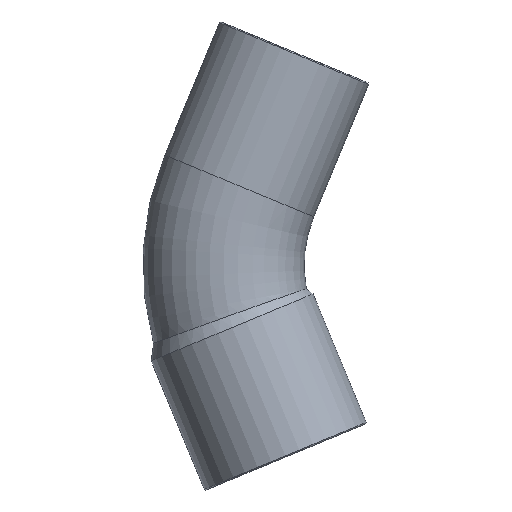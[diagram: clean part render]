
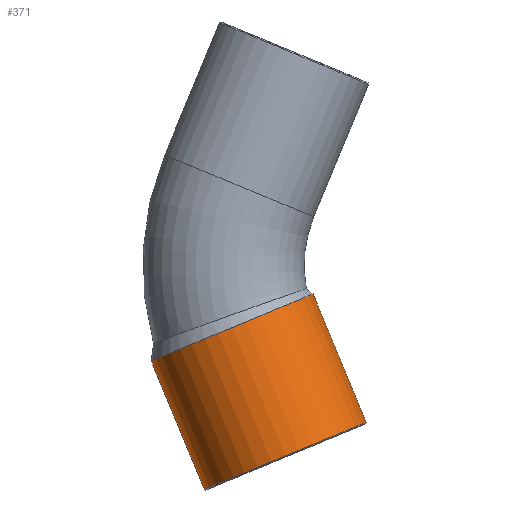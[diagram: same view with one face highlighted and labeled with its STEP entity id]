
A CAD part, front view. The second image highlights one B-rep face of the part: STEP entity #371.
In plain terms, the highlighted cylindrical face has radius 7.6 mm (diameter 15.2 mm), a partial arc.
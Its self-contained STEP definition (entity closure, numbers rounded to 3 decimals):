
#178=CARTESIAN_POINT('',(-19.835,0.,-8.303));
#179=VERTEX_POINT('',#178);
#186=CARTESIAN_POINT('',(-5.792,0.,-2.486));
#187=VERTEX_POINT('',#186);
#188=CARTESIAN_POINT('',(-12.814,0.,-5.395));
#189=DIRECTION('',(-0.383,0.,0.924));
#190=DIRECTION('',(0.924,0.,0.383));
#191=AXIS2_PLACEMENT_3D('',#188,#189,#190);
#192=CIRCLE('',#191,7.6);
#193=EDGE_CURVE('',#179,#187,#192,.T.);
#340=CARTESIAN_POINT('',(-12.752,0.,-5.543));
#341=DIRECTION('',(0.383,0.,-0.924));
#342=DIRECTION('',(0.924,0.,0.383));
#343=AXIS2_PLACEMENT_3D('',#340,#341,#342);
#344=CYLINDRICAL_SURFACE('',#343,7.6);
#345=CARTESIAN_POINT('',(-1.177,0.,-13.629));
#346=VERTEX_POINT('',#345);
#347=CARTESIAN_POINT('',(-5.792,0.,-2.486));
#348=DIRECTION('',(0.383,0.,-0.924));
#349=VECTOR('',#348,12.061);
#350=LINE('',#347,#349);
#351=EDGE_CURVE('',#187,#346,#350,.T.);
#352=ORIENTED_EDGE('',*,*,#351,.F.);
#353=ORIENTED_EDGE('',*,*,#193,.F.);
#354=CARTESIAN_POINT('',(-15.22,0.,-19.446));
#355=VERTEX_POINT('',#354);
#356=CARTESIAN_POINT('',(-15.22,0.,-19.446));
#357=DIRECTION('',(-0.383,0.,0.924));
#358=VECTOR('',#357,12.061);
#359=LINE('',#356,#358);
#360=EDGE_CURVE('',#355,#179,#359,.T.);
#361=ORIENTED_EDGE('',*,*,#360,.F.);
#362=CARTESIAN_POINT('',(-8.198,0.,-16.537));
#363=DIRECTION('',(0.383,0.,-0.924));
#364=DIRECTION('',(0.924,0.,0.383));
#365=AXIS2_PLACEMENT_3D('',#362,#363,#364);
#366=CIRCLE('',#365,7.6);
#367=EDGE_CURVE('',#346,#355,#366,.T.);
#368=ORIENTED_EDGE('',*,*,#367,.F.);
#369=EDGE_LOOP('',(#352,#353,#361,#368));
#370=FACE_OUTER_BOUND('',#369,.T.);
#371=ADVANCED_FACE('',(#370),#344,.T.);
